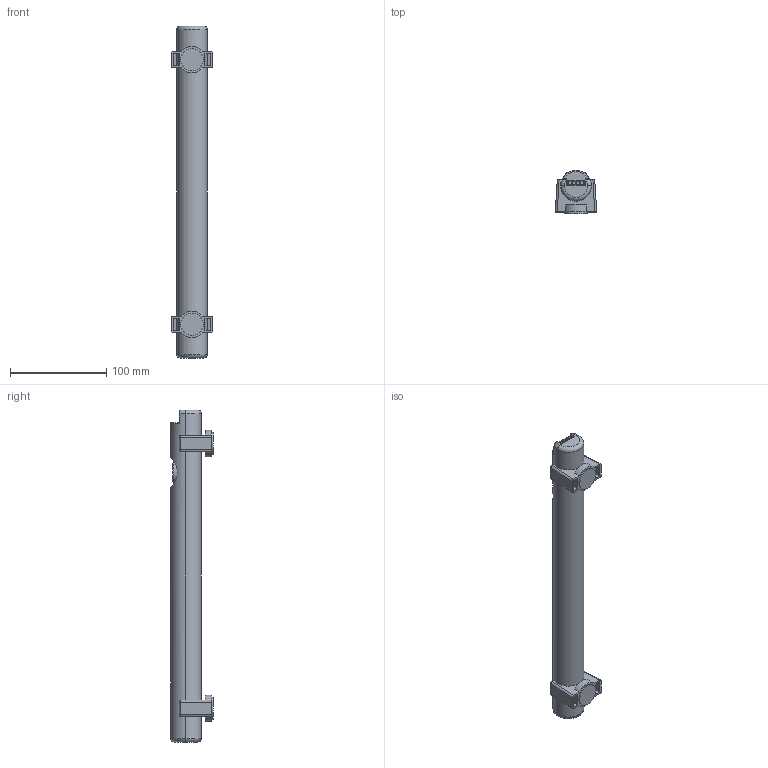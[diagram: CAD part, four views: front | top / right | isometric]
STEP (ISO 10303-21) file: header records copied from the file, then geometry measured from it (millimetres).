
FILE_DESCRIPTION (( 'STEP AP203' ), '1' );
FILE_NAME ('LA 2.5 LED M.STEP', '2022-03-22T09:35:44', ( '' ), ( '' ), 'SwSTEP 2.0', 'SolidWorks 2018', '' );
FILE_SCHEMA (( 'CONFIG_CONTROL_DESIGN' ));
Length unit declared in the file: millimetre
Products named in the file (1): LA 2.5 LED M
Bounding box: 43 x 44.5 x 345 mm (x, y, z)
Volume: 289875.3 mm3; surface area: 51282.2 mm2
Topology: 3 solids, 3 shells, 162 faces, 414 edges, 268 vertices
Faces by surface type: plane 83, cylinder 61, bspline 10, torus 6, cone 2
Entity records: 5599 total; most frequent: CARTESIAN_POINT 1615, ORIENTED_EDGE 828, DIRECTION 802, EDGE_CURVE 414, AXIS2_PLACEMENT_3D 279, VERTEX_POINT 268, LINE 244, VECTOR 244
